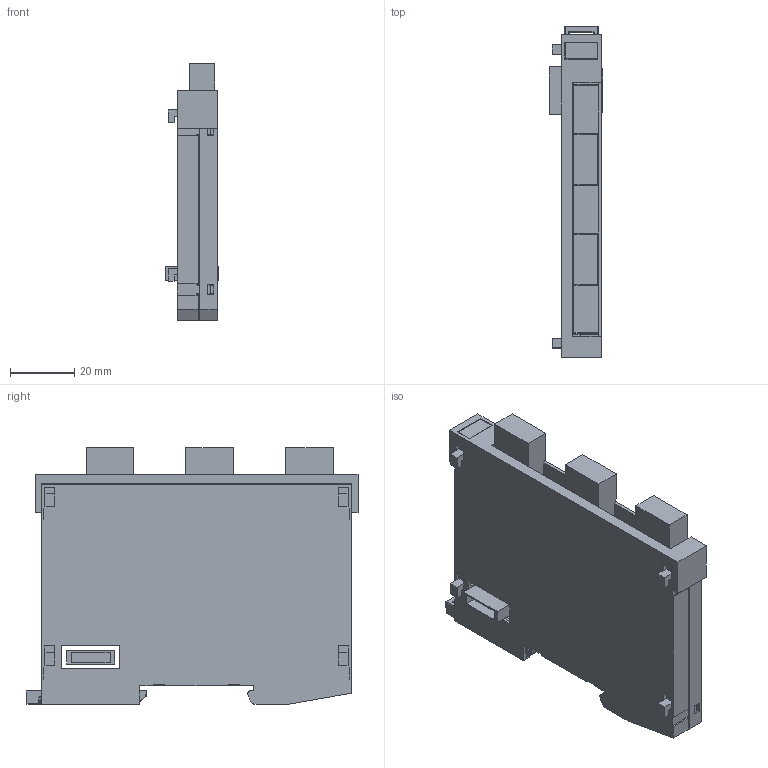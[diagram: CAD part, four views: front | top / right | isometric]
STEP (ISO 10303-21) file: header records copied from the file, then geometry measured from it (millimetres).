
FILE_DESCRIPTION (( 'STEP AP214' ), '1' );
FILE_NAME ('AO_026.STEP', '2016-12-29T08:32:49', ( 'SIGMATEK GmbH & Co KG' ), ( 'SIGMATEK GmbH & Co KG' ), 'SwSTEP 2.0', 'SolidWorks 2015', '' );
FILE_SCHEMA (( 'AUTOMOTIVE_DESIGN' ));
Length unit declared in the file: millimetre
Products named in the file (11): S-Dias Schale links_f Suport; 4110251342_MF 10-5 MC CABUR_1854510000; AO_026; LP_AO_026; Dummy_4110262104 4pol.Federkraftstecker f.2reih 1952283; Dummy_4110251205 4pol.Minicombicon-Grundgehõuse RM3,5 1937512; Dummy_4080225346 Erni Stift; Dummy_4080225345 Erni Buchse; S-Dias Rasthaken 20130313; Schieber_f Suport; S-Dias Schale rechts_f Suport
Assembly tree (16 placements, depth 3):
  AO_026
    4110251342_MF 10-5 MC CABUR_1854510000
    S-Dias Schale links_f Suport
    S-Dias Schale rechts_f Suport
    Schieber_f Suport
    S-Dias Rasthaken 20130313
    LP_AO_026
      Dummy_4080225345 Erni Buchse
      Dummy_4080225346 Erni Stift
      Dummy_4110251205 4pol.Minicombicon-Grundgehõuse RM3,5 1937512  x5
      Dummy_4110262104 4pol.Federkraftstecker f.2reih 1952283  x3
Bounding box: 16.8 x 103.61 x 80.15 mm (x, y, z)
Volume: 31340.9 mm3; surface area: 44696.9 mm2
Topology: 15 solids, 15 shells, 796 faces, 2296 edges, 1521 vertices
Faces by surface type: plane 562, cylinder 126, bspline 81, cone 27
Entity records: 35419 total; most frequent: CARTESIAN_POINT 7641, ORIENTED_EDGE 4404, DIRECTION 3355, EDGE_CURVE 2202, VECTOR 1557, LINE 1557, VERTEX_POINT 1465, AXIS2_PLACEMENT_3D 899
